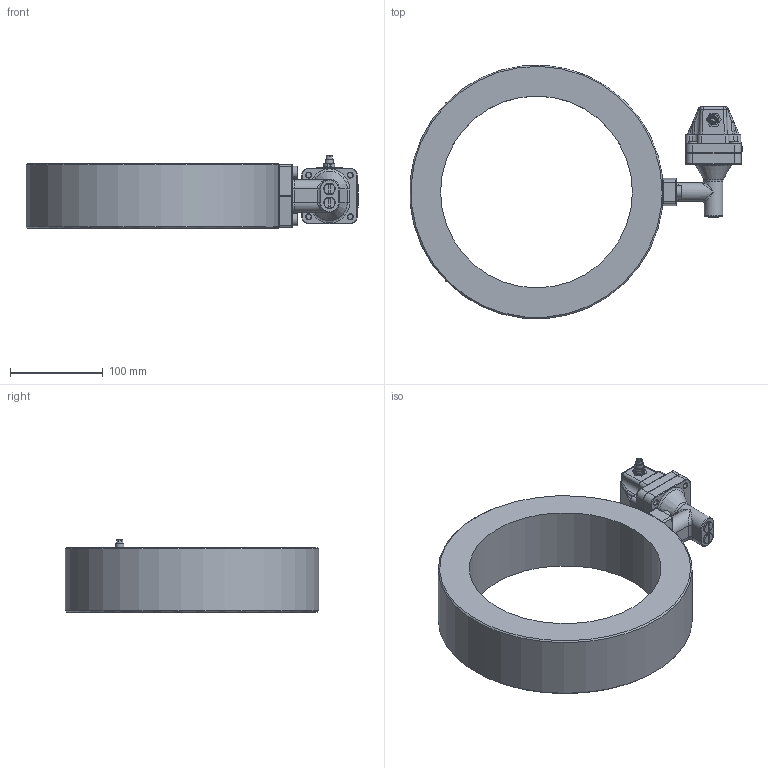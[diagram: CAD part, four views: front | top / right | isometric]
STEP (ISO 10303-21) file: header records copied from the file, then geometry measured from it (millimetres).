
FILE_DESCRIPTION(/* description */ ('Alibre Inc.'),/* implementation_level */ '2;1');
FILE_NAME(/* name */ 'export0',/* time_stamp */ '2012-11-14T15:47:03+01:00',/* author */ (''),/* organization */ (''),/* preprocessor_version */ 'ST-DEVELOPER v14',/* originating_system */ 'Alibre',/* authorisation */ '');
FILE_SCHEMA (('CONFIG_CONTROL_DESIGN'));
Length unit declared in the file: centimetre
Products named in the file (9): ID_1; ID_2; ID_3; ID_4; ID_5; ID_6; ID_7
Bounding box: 358.24 x 273.35 x 78.5 mm (x, y, z)
Volume: 1939589.1 mm3; surface area: 219327.5 mm2
Topology: 13 solids, 14 shells, 843 faces, 1841 edges, 1062 vertices
Faces by surface type: plane 268, cylinder 261, bspline 132, cone 92, torus 52, sphere 38
Full cylindrical faces by diameter (mm): 0.75 x5, 3.198 x4, 6 x16, 6.2 x1, 6.4 x4, 6.7 x1, 8 x4, 8.5 x2, 8.7 x2, 8.9 x1, 9.6 x4, 10 x4, 11 x4, 11.75 x2, 12 x2, 13 x2, 14 x2, 17.2 x2, 21.1 x2, 32 x1, 47 x1, 207 x1
Entity records: 45158 total; most frequent: CARTESIAN_POINT 29412, ORIENTED_EDGE 2974, DIRECTION 2907, EDGE_CURVE 1487, AXIS2_PLACEMENT_3D 1307, VERTEX_POINT 911, EDGE_LOOP 894, FACE_BOUND 894
